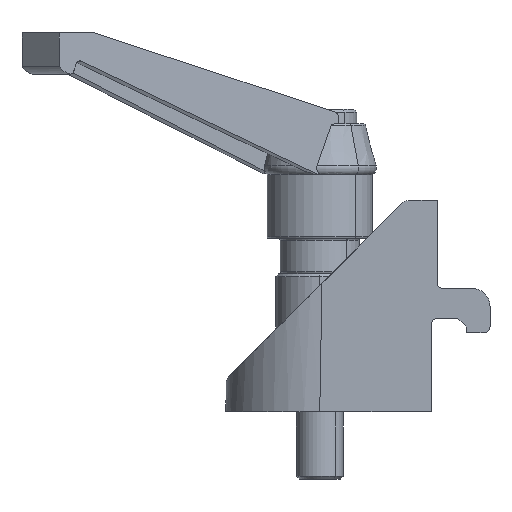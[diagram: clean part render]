
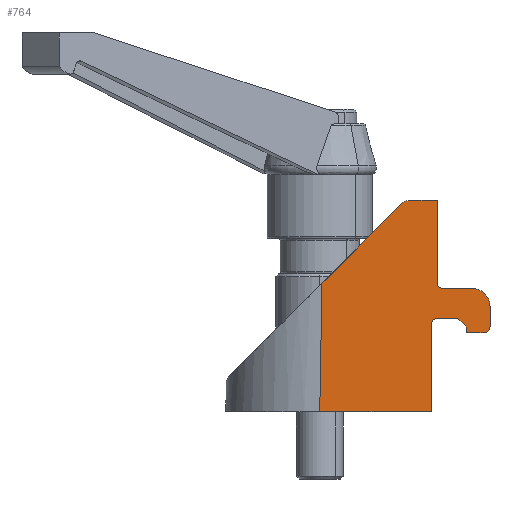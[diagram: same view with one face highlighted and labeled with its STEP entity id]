
A CAD part, left-side view. The second image highlights one B-rep face of the part: STEP entity #764.
In plain terms, the highlighted planar face has unit normal (-1, 0, 0).
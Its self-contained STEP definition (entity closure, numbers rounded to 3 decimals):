
#22 = CARTESIAN_POINT ( 'NONE',  ( 0., 1., 13.45 ) ) ;
#78 = CARTESIAN_POINT ( 'NONE',  ( 0., 9., 36. ) ) ;
#86 = CARTESIAN_POINT ( 'NONE',  ( 0., 0., 14.45 ) ) ;
#98 = DIRECTION ( 'NONE',  ( 0., 0., -1. ) ) ;
#107 = VERTEX_POINT ( 'NONE', #514 ) ;
#125 = EDGE_CURVE ( 'NONE', #3328, #4010, #192, .T. ) ;
#127 = VERTEX_POINT ( 'NONE', #3065 ) ;
#142 = EDGE_CURVE ( 'NONE', #4114, #127, #430, .T. ) ;
#149 = CARTESIAN_POINT ( 'NONE',  ( 0., 8., 21.95 ) ) ;
#192 = LINE ( 'NONE', #2362, #4014 ) ;
#212 = DIRECTION ( 'NONE',  ( 0., 0., -1. ) ) ;
#285 = PLANE ( 'NONE',  #3745 ) ;
#293 = EDGE_CURVE ( 'NONE', #1424, #3758, #909, .T. ) ;
#299 = EDGE_CURVE ( 'NONE', #979, #2300, #2193, .T. ) ;
#306 = VECTOR ( 'NONE', #846, 1000. ) ;
#317 = DIRECTION ( 'NONE',  ( 0., 1., 0. ) ) ;
#332 = LINE ( 'NONE', #1620, #306 ) ;
#346 = EDGE_CURVE ( 'NONE', #3998, #2551, #593, .T. ) ;
#373 = VECTOR ( 'NONE', #2250, 1000. ) ;
#423 = CARTESIAN_POINT ( 'NONE',  ( 0., 4., 13.45 ) ) ;
#430 = CIRCLE ( 'NONE', #970, 1. ) ;
#444 = CARTESIAN_POINT ( 'NONE',  ( 0., 9., 15.9 ) ) ;
#453 = EDGE_CURVE ( 'NONE', #2551, #3328, #2004, .T. ) ;
#471 = DIRECTION ( 'NONE',  ( 0., 0., -1. ) ) ;
#514 = CARTESIAN_POINT ( 'NONE',  ( 0., 3., 20.95 ) ) ;
#552 = VERTEX_POINT ( 'NONE', #444 ) ;
#593 = LINE ( 'NONE', #3174, #1828 ) ;
#601 = CARTESIAN_POINT ( 'NONE',  ( 0., 29.004, 0. ) ) ;
#643 = DIRECTION ( 'NONE',  ( 0., -0.017, 1. ) ) ;
#667 = CARTESIAN_POINT ( 'NONE',  ( 0., 9., 14.9 ) ) ;
#764 = ADVANCED_FACE ( 'NONE', ( #4105 ), #285, .F. ) ;
#830 = EDGE_CURVE ( 'NONE', #107, #1121, #3754, .T. ) ;
#846 = DIRECTION ( 'NONE',  ( 0., -1., 0. ) ) ;
#905 = AXIS2_PLACEMENT_3D ( 'NONE', #2874, #3831, #98 ) ;
#909 = LINE ( 'NONE', #2525, #2289 ) ;
#943 = CARTESIAN_POINT ( 'NONE',  ( 0., 10., 14.9 ) ) ;
#953 = CARTESIAN_POINT ( 'NONE',  ( 0., 10., 0. ) ) ;
#970 = AXIS2_PLACEMENT_3D ( 'NONE', #149, #3625, #212 ) ;
#979 = VERTEX_POINT ( 'NONE', #2378 ) ;
#987 = LINE ( 'NONE', #1358, #373 ) ;
#989 = CARTESIAN_POINT ( 'NONE',  ( 0., 5.5, 15.9 ) ) ;
#1000 = CARTESIAN_POINT ( 'NONE',  ( 0., 5.5, 15.9 ) ) ;
#1002 = ORIENTED_EDGE ( 'NONE', *, *, #453, .F. ) ;
#1032 = VECTOR ( 'NONE', #2217, 1000. ) ;
#1035 = ORIENTED_EDGE ( 'NONE', *, *, #2786, .F. ) ;
#1057 = CARTESIAN_POINT ( 'NONE',  ( 0., 8., 20.95 ) ) ;
#1117 = EDGE_CURVE ( 'NONE', #3758, #2190, #3825, .T. ) ;
#1121 = VERTEX_POINT ( 'NONE', #3390 ) ;
#1182 = AXIS2_PLACEMENT_3D ( 'NONE', #667, #1658, #1327 ) ;
#1187 = EDGE_CURVE ( 'NONE', #2300, #1424, #3221, .T. ) ;
#1221 = VERTEX_POINT ( 'NONE', #1957 ) ;
#1264 = VERTEX_POINT ( 'NONE', #78 ) ;
#1274 = CARTESIAN_POINT ( 'NONE',  ( 0., 28.367, 36.501 ) ) ;
#1294 = ORIENTED_EDGE ( 'NONE', *, *, #830, .F. ) ;
#1327 = DIRECTION ( 'NONE',  ( 0., 0., -1. ) ) ;
#1336 = LINE ( 'NONE', #1057, #2035 ) ;
#1344 = VECTOR ( 'NONE', #471, 1000. ) ;
#1358 = CARTESIAN_POINT ( 'NONE',  ( 0., 0., 17.95 ) ) ;
#1417 = DIRECTION ( 'NONE',  ( 1., 0., 0. ) ) ;
#1422 = ORIENTED_EDGE ( 'NONE', *, *, #1187, .F. ) ;
#1424 = VERTEX_POINT ( 'NONE', #3924 ) ;
#1462 = DIRECTION ( 'NONE',  ( 0., 0., -1. ) ) ;
#1538 = ORIENTED_EDGE ( 'NONE', *, *, #2033, .T. ) ;
#1544 = CARTESIAN_POINT ( 'NONE',  ( 0., 4., 13.45 ) ) ;
#1573 = DIRECTION ( 'NONE',  ( 0., 1., 0. ) ) ;
#1620 = CARTESIAN_POINT ( 'NONE',  ( 0., 13.65, 36. ) ) ;
#1658 = DIRECTION ( 'NONE',  ( 1., 0., 0. ) ) ;
#1690 = ORIENTED_EDGE ( 'NONE', *, *, #299, .F. ) ;
#1695 = DIRECTION ( 'NONE',  ( 0., 0., 1. ) ) ;
#1738 = DIRECTION ( 'NONE',  ( 0., 0.707, 0.707 ) ) ;
#1758 = VECTOR ( 'NONE', #1695, 1000. ) ;
#1775 = EDGE_CURVE ( 'NONE', #3129, #3998, #3897, .T. ) ;
#1828 = VECTOR ( 'NONE', #317, 1000. ) ;
#1833 = DIRECTION ( 'NONE',  ( 0., 0., -1. ) ) ;
#1834 = VECTOR ( 'NONE', #643, 1000. ) ;
#1922 = ORIENTED_EDGE ( 'NONE', *, *, #1117, .F. ) ;
#1955 = EDGE_CURVE ( 'NONE', #2190, #1264, #332, .T. ) ;
#1957 = CARTESIAN_POINT ( 'NONE',  ( 0., 10., 14.9 ) ) ;
#2004 = LINE ( 'NONE', #423, #1758 ) ;
#2012 = ORIENTED_EDGE ( 'NONE', *, *, #4087, .F. ) ;
#2033 = EDGE_CURVE ( 'NONE', #1221, #552, #3175, .T. ) ;
#2034 = ORIENTED_EDGE ( 'NONE', *, *, #293, .F. ) ;
#2035 = VECTOR ( 'NONE', #2281, 1000. ) ;
#2094 = ORIENTED_EDGE ( 'NONE', *, *, #1955, .F. ) ;
#2113 = LINE ( 'NONE', #4005, #1344 ) ;
#2163 = VECTOR ( 'NONE', #3238, 1000. ) ;
#2190 = VERTEX_POINT ( 'NONE', #2725 ) ;
#2193 = LINE ( 'NONE', #953, #1032 ) ;
#2217 = DIRECTION ( 'NONE',  ( 0., 1., 0. ) ) ;
#2250 = DIRECTION ( 'NONE',  ( 0., 0., -1. ) ) ;
#2281 = DIRECTION ( 'NONE',  ( 0., -1., 0. ) ) ;
#2289 = VECTOR ( 'NONE', #4046, 1000. ) ;
#2300 = VERTEX_POINT ( 'NONE', #601 ) ;
#2326 = ORIENTED_EDGE ( 'NONE', *, *, #1775, .F. ) ;
#2342 = ORIENTED_EDGE ( 'NONE', *, *, #2541, .F. ) ;
#2362 = CARTESIAN_POINT ( 'NONE',  ( 0., 4., 14.4 ) ) ;
#2378 = CARTESIAN_POINT ( 'NONE',  ( 0., 10., 0. ) ) ;
#2501 = CARTESIAN_POINT ( 'NONE',  ( 0., 13.65, 34. ) ) ;
#2525 = CARTESIAN_POINT ( 'NONE',  ( 0., 44.374, 6.104 ) ) ;
#2541 = EDGE_CURVE ( 'NONE', #1121, #3129, #987, .T. ) ;
#2551 = VERTEX_POINT ( 'NONE', #1544 ) ;
#2613 = ORIENTED_EDGE ( 'NONE', *, *, #3802, .F. ) ;
#2708 = EDGE_CURVE ( 'NONE', #4010, #552, #3604, .T. ) ;
#2725 = CARTESIAN_POINT ( 'NONE',  ( 0., 13.65, 36. ) ) ;
#2766 = LINE ( 'NONE', #943, #3125 ) ;
#2786 = EDGE_CURVE ( 'NONE', #4114, #107, #1336, .T. ) ;
#2874 = CARTESIAN_POINT ( 'NONE',  ( 0., 3., 17.95 ) ) ;
#2906 = AXIS2_PLACEMENT_3D ( 'NONE', #3018, #1417, #1462 ) ;
#3018 = CARTESIAN_POINT ( 'NONE',  ( 0., 1., 14.45 ) ) ;
#3020 = CARTESIAN_POINT ( 'NONE',  ( 0., 8., 20.95 ) ) ;
#3065 = CARTESIAN_POINT ( 'NONE',  ( 0., 9., 21.95 ) ) ;
#3098 = CARTESIAN_POINT ( 'NONE',  ( 0., 13.65, 34. ) ) ;
#3125 = VECTOR ( 'NONE', #1833, 1000. ) ;
#3129 = VERTEX_POINT ( 'NONE', #86 ) ;
#3174 = CARTESIAN_POINT ( 'NONE',  ( 0., 1., 13.45 ) ) ;
#3175 = CIRCLE ( 'NONE', #1182, 1. ) ;
#3221 = LINE ( 'NONE', #1274, #1834 ) ;
#3238 = DIRECTION ( 'NONE',  ( 0., 1., 0. ) ) ;
#3328 = VERTEX_POINT ( 'NONE', #3600 ) ;
#3361 = EDGE_LOOP ( 'NONE', ( #1422, #1690, #2613, #1538, #3555, #3908, #1002, #4036, #2326, #2342, #1294, #1035, #4004, #2012, #2094, #1922, #2034 ) ) ;
#3390 = CARTESIAN_POINT ( 'NONE',  ( 0., 0., 17.95 ) ) ;
#3447 = DIRECTION ( 'NONE',  ( 0., 0., -1. ) ) ;
#3555 = ORIENTED_EDGE ( 'NONE', *, *, #2708, .F. ) ;
#3597 = CARTESIAN_POINT ( 'NONE',  ( 0., 15.064, 35.414 ) ) ;
#3600 = CARTESIAN_POINT ( 'NONE',  ( 0., 4., 14.4 ) ) ;
#3604 = LINE ( 'NONE', #1000, #2163 ) ;
#3625 = DIRECTION ( 'NONE',  ( 1., 0., 0. ) ) ;
#3745 = AXIS2_PLACEMENT_3D ( 'NONE', #2501, #3768, #1573 ) ;
#3754 = CIRCLE ( 'NONE', #905, 3. ) ;
#3758 = VERTEX_POINT ( 'NONE', #3597 ) ;
#3768 = DIRECTION ( 'NONE',  ( 1., 0., 0. ) ) ;
#3802 = EDGE_CURVE ( 'NONE', #1221, #979, #2766, .T. ) ;
#3825 = CIRCLE ( 'NONE', #4090, 2. ) ;
#3831 = DIRECTION ( 'NONE',  ( 1., 0., 0. ) ) ;
#3897 = CIRCLE ( 'NONE', #2906, 1. ) ;
#3908 = ORIENTED_EDGE ( 'NONE', *, *, #125, .F. ) ;
#3924 = CARTESIAN_POINT ( 'NONE',  ( 0., 28.623, 21.855 ) ) ;
#3998 = VERTEX_POINT ( 'NONE', #22 ) ;
#4004 = ORIENTED_EDGE ( 'NONE', *, *, #142, .T. ) ;
#4005 = CARTESIAN_POINT ( 'NONE',  ( 0., 9., 36. ) ) ;
#4010 = VERTEX_POINT ( 'NONE', #989 ) ;
#4014 = VECTOR ( 'NONE', #1738, 1000. ) ;
#4036 = ORIENTED_EDGE ( 'NONE', *, *, #346, .F. ) ;
#4046 = DIRECTION ( 'NONE',  ( 0., -0.707, 0.707 ) ) ;
#4087 = EDGE_CURVE ( 'NONE', #1264, #127, #2113, .T. ) ;
#4090 = AXIS2_PLACEMENT_3D ( 'NONE', #3098, #4098, #3447 ) ;
#4098 = DIRECTION ( 'NONE',  ( 1., 0., 0. ) ) ;
#4105 = FACE_OUTER_BOUND ( 'NONE', #3361, .T. ) ;
#4114 = VERTEX_POINT ( 'NONE', #3020 ) ;
